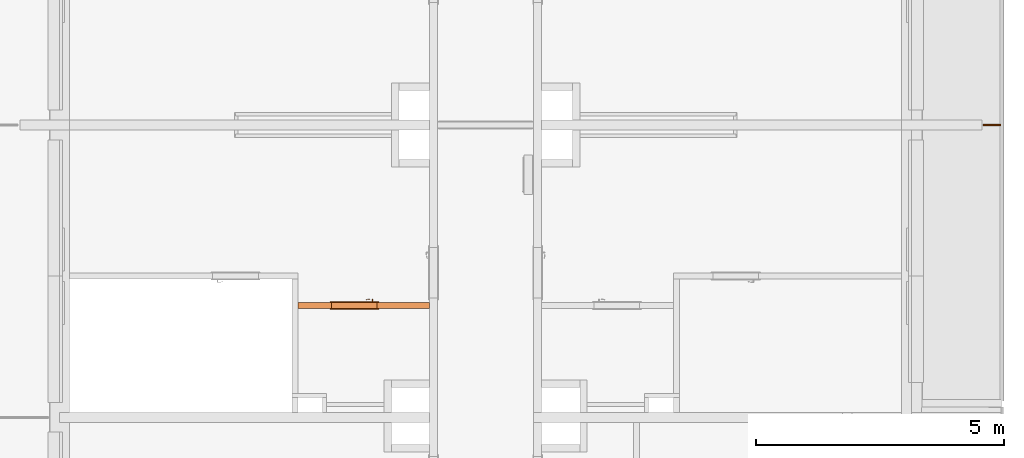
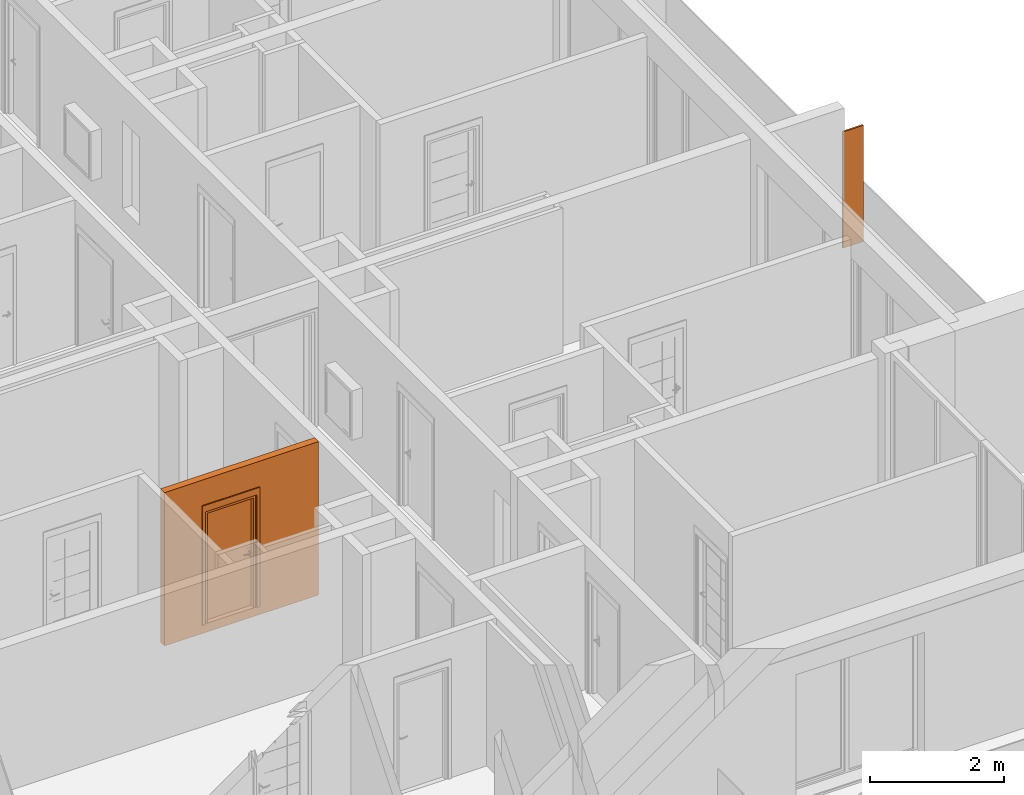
# One storey, part 27 of 64: 3 proxies, 1 opening.
"""IFC2X3 building model written with IfcOpenShell, lengths in millimetres."""

from ifc_helpers import new_model, entity, si_unit, converted_unit, derived_unit, money_unit, direction, frame, origin_with_axes, origin_2d_with_axis, place, context, subcontext, project, spatial, polyline, rectangle, outline, extrude, open_shell, faceted_brep, surface_model, source, transform, mapped, material, type_object, element, fill, save


model = new_model("IFC2X3")

# Units and contexts
model_context = context("Model", 3, precision=0.01, world=origin_with_axes(), true_north=direction((0.34421633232, 0.938890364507)))
body_context = subcontext(model_context, "Body", "Model", "MODEL_VIEW")
ifc_project = project(units=[si_unit("LENGTHUNIT", "METRE", prefix="MILLI"), si_unit("AREAUNIT", "SQUARE_METRE"), si_unit("VOLUMEUNIT", "CUBIC_METRE"), converted_unit("PLANEANGLEUNIT", "DEGREE", entity("IfcPlaneAngleMeasure", 0.0174532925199), si_unit("PLANEANGLEUNIT", "RADIAN"), dimensions=[0, 0, 0, 0, 0, 0, 0]), si_unit("SOLIDANGLEUNIT", "STERADIAN"), money_unit("USD"), converted_unit("TIMEUNIT", "Year", entity("IfcTimeMeasure", 31556926.0), si_unit("TIMEUNIT", "SECOND"), dimensions=[0, 0, 1, 0, 0, 0, 0]), si_unit("MASSUNIT", "GRAM", prefix="KILO"), si_unit("THERMODYNAMICTEMPERATUREUNIT", "DEGREE_CELSIUS"), si_unit("LUMINOUSINTENSITYUNIT", "LUMEN"), si_unit("ENERGYUNIT", "JOULE", prefix="MEGA"), derived_unit("THERMALCONDUCTANCEUNIT", [(si_unit("POWERUNIT", "WATT"), 1), (si_unit("LENGTHUNIT", "METRE"), -1), (si_unit("THERMODYNAMICTEMPERATUREUNIT", "KELVIN"), -1)]), derived_unit("SPECIFICHEATCAPACITYUNIT", [(si_unit("ENERGYUNIT", "JOULE"), 1), (si_unit("MASSUNIT", "GRAM", prefix="KILO"), -1), (si_unit("THERMODYNAMICTEMPERATUREUNIT", "KELVIN"), -1)]), derived_unit("MASSDENSITYUNIT", [(si_unit("MASSUNIT", "GRAM", prefix="KILO"), 1), (si_unit("VOLUMEUNIT", "CUBIC_METRE"), -1)])], contexts=[model_context])

# Site, building, storey
site_placement = place(None, origin_with_axes())
site = spatial("IfcSite", under=ifc_project, at=site_placement, Name="USTRONIE MORSKIE", CompositionType="ELEMENT")
building_placement = place(site_placement, origin_with_axes())
building = spatial("IfcBuilding", under=site, at=building_placement, Name="Budynek", CompositionType="ELEMENT")
storey_placement = place(building_placement, frame((0.0, 0.0, 7000.0), z_axis=(0.0, 0.0, 1.0), x_axis=(1.0, 0.0, 0.0)))
storey = spatial("IfcBuildingStorey", under=building, at=storey_placement, Name="PIĘTRO 2", CompositionType="ELEMENT", Elevation=7000.0)

# Proxies, opening
ifc_material_1 = material(Name="Bloczki silikatowe")
building_element_proxy_type_1 = type_object("IfcBuildingElementProxyType", Name="Bloczki silikatowe 120", PredefinedType="NOTDEFINED")
proxy_1_placement = place(storey_placement, frame((413217.920919, 717361.219701, -160.0), z_axis=(0.0, 0.0, 1.0), x_axis=(1.0, 0.0, 0.0)))
proxy_1 = element("IfcBuildingElementProxy", 1, at=proxy_1_placement, inside=storey, type_object=building_element_proxy_type_1, material=ifc_material_1, Name="SW-04", context=body_context, shape_type="Brep", body=[
    faceted_brep([(2720.0, 59.9999999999, 0.0), (2720.0, -59.9999999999, 0.0), (60.0, -59.9999999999, 0.0), (60.0, 59.9999999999, 0.0), (2720.0, 59.9999999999, 2800.0), (2720.0, -59.9999999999, 2800.0), (60.0, -59.9999999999, 2800.0), (60.0, 59.9999999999, 2800.0)], [[[0, 1, 2, 3]], [[1, 0, 4, 5]], [[1, 5, 6, 2]], [[7, 3, 2, 6]], [[4, 0, 3, 7]], [[5, 4, 7, 6]]]),
])
opening_placement = place(proxy_1_placement, frame((1200.0, 0.0, 160.0), z_axis=(0.0, 0.0, 1.0), x_axis=(1.0, 0.0, 0.0)))
opening = element("IfcOpeningElement", 2, at=opening_placement, cuts=proxy_1, Name="Dw.4", context=body_context, shape_type="SweptSolid", body=[
    extrude(rectangle(XDim=920.0, YDim=2070.0, at=origin_2d_with_axis()), frame((0.0, -120.0, 1035.0), z_axis=(0.0, -1.0, 0.0), x_axis=(-1.0, 0.0, 0.0)), (0.0, 0.0, -1.0), 360.0),
    extrude(rectangle(XDim=994.0, YDim=2177.0, at=origin_2d_with_axis()), frame((0.0, -59.9999999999, 1088.5), z_axis=(0.0, -1.0, 0.0), x_axis=(-1.0, 0.0, 0.0)), (0.0, 0.0, 1.0), 120.0),
    extrude(rectangle(XDim=994.0, YDim=2177.0, at=origin_2d_with_axis()), frame((0.0, 60.0000000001, 1088.5), z_axis=(0.0, 1.0, 0.0), x_axis=(-1.0, 0.0, 0.0)), (0.0, 0.0, 1.0), 120.0),
])
building_element_proxy_type_2 = type_object("IfcBuildingElementProxyType", Name="Drzwi 23", PredefinedType="NOTDEFINED")
shared_shape = source(origin_with_axes(), body_context, "Body", "SurfaceModel", [
    faceted_brep([(460.0, -115.0, 0.0), (460.0, -120.0, 0.0), (435.0, -120.0, 0.0), (435.0, -115.0, 0.0), (460.0, -115.0, 2070.0), (460.0, -120.0, 2070.0), (435.0, -120.0, 2045.0), (435.0, -115.0, 2045.0)], [[[0, 1, 2, 3]], [[4, 5, 1, 0]], [[1, 5, 6, 2]], [[3, 2, 6, 7]], [[0, 3, 7, 4]], [[7, 6, 5, 4]]]),
    faceted_brep([(-460.0, -115.0, 2070.0), (-460.0, -120.0, 2070.0), (-435.0, -120.0, 2045.0), (-435.0, -115.0, 2045.0), (-460.0, -115.0, 0.0), (-460.0, -120.0, 0.0), (-435.0, -120.0, 0.0), (-435.0, -115.0, 0.0)], [[[0, 1, 2, 3]], [[4, 5, 1, 0]], [[1, 5, 6, 2]], [[3, 2, 6, 7]], [[0, 3, 7, 4]], [[7, 6, 5, 4]]]),
    faceted_brep([(435.0, -115.0, 2045.0), (435.0, -120.0, 2045.0), (-435.0, -120.0, 2045.0), (-435.0, -115.0, 2045.0), (460.0, -115.0, 2070.0), (460.0, -120.0, 2070.0), (-460.0, -120.0, 2070.0), (-460.0, -115.0, 2070.0)], [[[0, 1, 2, 3]], [[4, 5, 1, 0]], [[1, 5, 6, 2]], [[3, 2, 6, 7]], [[0, 3, 7, 4]], [[7, 6, 5, 4]]]),
    faceted_brep([(497.0, -139.0, 0.0), (447.0, -139.0, 0.0), (447.0, -120.0, 0.0), (497.0, -120.0, 0.0), (497.0, -139.0, 2177.0), (447.0, -139.0, 2057.0), (447.0, -120.0, 2057.0), (497.0, -120.0, 2177.0)], [[[0, 1, 2, 3]], [[0, 4, 5, 1]], [[1, 5, 6, 2]], [[3, 2, 6, 7]], [[4, 0, 3, 7]], [[5, 4, 7, 6]]]),
    faceted_brep([(-497.0, -139.0, 2177.0), (-447.0, -139.0, 2057.0), (-447.0, -120.0, 2057.0), (-497.0, -120.0, 2177.0), (-497.0, -139.0, 0.0), (-447.0, -139.0, 0.0), (-447.0, -120.0, 0.0), (-497.0, -120.0, 0.0)], [[[0, 1, 2, 3]], [[0, 4, 5, 1]], [[1, 5, 6, 2]], [[3, 2, 6, 7]], [[4, 0, 3, 7]], [[5, 4, 7, 6]]]),
    faceted_brep([(497.0, -139.0, 2177.0), (447.0, -139.0, 2057.0), (447.0, -120.0, 2057.0), (497.0, -120.0, 2177.0), (-497.0, -139.0, 2177.0), (-447.0, -139.0, 2057.0), (-447.0, -120.0, 2057.0), (-497.0, -120.0, 2177.0)], [[[0, 1, 2, 3]], [[0, 4, 5, 1]], [[1, 5, 6, 2]], [[3, 2, 6, 7]], [[4, 0, 3, 7]], [[5, 4, 7, 6]]]),
    faceted_brep([(497.0, 19.0, 0.0), (497.0, 0.0, 0.0), (447.0, 0.0, 0.0), (447.0, 19.0, 0.0), (497.0, 19.0, 2177.0), (497.0, 0.0, 2177.0), (447.0, 0.0, 2057.0), (447.0, 19.0, 2057.0)], [[[0, 1, 2, 3]], [[4, 5, 1, 0]], [[1, 5, 6, 2]], [[3, 2, 6, 7]], [[0, 3, 7, 4]], [[7, 6, 5, 4]]]),
    faceted_brep([(-497.0, 19.0, 2177.0), (-497.0, 0.0, 2177.0), (-447.0, 0.0, 2057.0), (-447.0, 19.0, 2057.0), (-497.0, 19.0, 0.0), (-497.0, 0.0, 0.0), (-447.0, 0.0, 0.0), (-447.0, 19.0, 0.0)], [[[0, 1, 2, 3]], [[4, 5, 1, 0]], [[1, 5, 6, 2]], [[3, 2, 6, 7]], [[0, 3, 7, 4]], [[7, 6, 5, 4]]]),
    faceted_brep([(497.0, 19.0, 2177.0), (497.0, 0.0, 2177.0), (447.0, 0.0, 2057.0), (447.0, 19.0, 2057.0), (-497.0, 19.0, 2177.0), (-497.0, 0.0, 2177.0), (-447.0, 0.0, 2057.0), (-447.0, 19.0, 2057.0)], [[[0, 1, 2, 3]], [[4, 5, 1, 0]], [[1, 5, 6, 2]], [[3, 2, 6, 7]], [[0, 3, 7, 4]], [[7, 6, 5, 4]]]),
    faceted_brep([(400.0, -40.0, 0.0), (400.0, -115.0, 0.0), (400.0, -115.0, 2000.0), (400.0, -40.0, 2000.0), (412.0, -40.0, 0.0), (412.0, 0.0, 0.0), (460.0, 0.0, 0.0), (460.0, -115.0, 0.0), (460.0, -115.0, 2000.0), (412.0, -40.0, 2000.0), (460.0, 0.0, 2000.0), (412.0, 0.0, 2000.0)], [[[0, 1, 2, 3]], [[4, 5, 6, 7, 1, 0]], [[1, 7, 8, 2]], [[9, 3, 2, 8, 10, 11]], [[9, 4, 0, 3]], [[11, 5, 4, 9]], [[11, 10, 6, 5]], [[6, 10, 8, 7]]]),
    faceted_brep([(-412.0, -40.0, 2000.0), (-412.0, 0.0, 2000.0), (-460.0, 0.0, 2000.0), (-460.0, -115.0, 2000.0), (-400.0, -115.0, 2000.0), (-400.0, -40.0, 2000.0), (-412.0, -40.0, 0.0), (-412.0, 0.0, 0.0), (-460.0, 0.0, 0.0), (-460.0, -115.0, 0.0), (-400.0, -115.0, 0.0), (-400.0, -40.0, 0.0)], [[[0, 1, 2, 3, 4, 5]], [[0, 6, 7, 1]], [[7, 8, 2, 1]], [[2, 8, 9, 3]], [[3, 9, 10, 4]], [[5, 4, 10, 11]], [[5, 11, 6, 0]], [[6, 11, 10, 9, 8, 7]]]),
    faceted_brep([(412.0, 0.0, 2012.0), (-412.0, 0.0, 2012.0), (-412.0, 0.0, 2000.0), (-460.0, 0.0, 2000.0), (-460.0, 0.0, 2070.0), (460.0, 0.0, 2070.0), (460.0, 0.0, 2000.0), (412.0, 0.0, 2000.0), (412.0, -40.0, 2012.0), (-412.0, -40.0, 2012.0), (-412.0, -40.0, 2000.0), (-400.0, -40.0, 2000.0), (-400.0, -115.0, 2000.0), (-460.0, -115.0, 2000.0), (-460.0, -115.0, 2070.0), (460.0, -115.0, 2070.0), (460.0, -115.0, 2000.0), (412.0, -40.0, 2000.0), (400.0, -115.0, 2000.0), (400.0, -40.0, 2000.0)], [[[0, 1, 2, 3, 4, 5, 6, 7]], [[0, 8, 9, 1]], [[1, 9, 10, 2]], [[10, 11, 12, 13, 3, 2]], [[4, 3, 13, 14]], [[5, 4, 14, 15]], [[6, 5, 15, 16]], [[17, 7, 6, 16, 18, 19]], [[7, 17, 8, 0]], [[10, 9, 8, 17, 19, 11]], [[19, 18, 12, 11]], [[12, 18, 16, 15, 14, 13]]]),
    faceted_brep([(390.5, -40.0, 1060.0), (333.5, -40.0, 1060.0), (333.5, -43.0, 1060.0), (390.5, -43.0, 1060.0), (390.5, -40.0, 870.0), (333.5, -40.0, 870.0), (333.5, -43.0, 870.0), (390.5, -43.0, 870.0)], [[[0, 1, 2, 3]], [[0, 4, 5, 1]], [[1, 5, 6, 2]], [[3, 2, 6, 7]], [[4, 0, 3, 7]], [[5, 4, 7, 6]]]),
    faceted_brep([(362.0, -104.0, 990.0), (367.0, -104.0, 991.339745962), (367.0, -111.0, 991.339745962), (362.0, -111.0, 990.0), (337.0, -104.0, 990.0), (337.0, -104.0, 1010.0), (362.0, -104.0, 1010.0), (367.0, -104.0, 1008.66025404), (370.660254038, -104.0, 1005.0), (372.0, -104.0, 1000.0), (370.660254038, -104.0, 995.0), (370.660254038, -111.0, 995.0), (372.0, -111.0, 1000.0), (370.660254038, -111.0, 1005.0), (367.0, -111.0, 1008.66025404), (362.0, -111.0, 1010.0), (337.0, -111.0, 1010.0), (337.0, -111.0, 990.0)], [[[0, 1, 2, 3]], [[0, 4, 5, 6, 7, 8, 9, 10, 1]], [[1, 10, 11, 2]], [[3, 2, 11, 12, 13, 14, 15, 16, 17]], [[4, 0, 3, 17]], [[5, 4, 17, 16]], [[6, 5, 16, 15]], [[7, 6, 15, 14]], [[8, 7, 14, 13]], [[9, 8, 13, 12]], [[10, 9, 12, 11]]]),
    surface_model("IfcShellBasedSurfaceModel", [(337.0, -104.0, 1010.0), (323.901717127, -104.0, 1009.60730092), (323.596090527, -111.0, 1009.60730092), (337.0, -104.0, 990.0), (323.901717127, -104.0, 990.392699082), (296.890283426, -108.663544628, 1008.82190275), (337.0, -111.0, 1010.0), (337.0, -111.0, 990.0), (297.804837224, -101.716818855, 991.178097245), (297.804837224, -101.716818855, 1008.82190275), (296.890283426, -108.663544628, 991.178097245), (323.596090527, -111.0, 990.392699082), (272.006256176, -97.1678329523, 991.963495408), (272.006256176, -97.1678329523, 1008.03650459), (270.489735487, -104.008415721, 1008.03650459), (270.489735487, -104.008415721, 991.963495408), (246.702316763, -90.3876628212, 992.748893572), (246.702316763, -90.3876628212, 1007.25110643), (244.59537082, -97.0700416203, 1007.25110643), (244.59537082, -97.0700416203, 992.748893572), (238.829442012, -87.5221707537, 993.0), (238.829442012, -87.5221707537, 1007.0), (236.538795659, -94.1376880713, 1007.0), (236.538795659, -94.1376880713, 993.0)], [open_shell([[[0, 1, 2]], [[0, 3, 4, 1]], [[1, 5, 2]], [[0, 2, 6]], [[4, 3, 7]], [[1, 4, 8, 9]], [[1, 9, 5]], [[2, 5, 10, 11]], [[6, 2, 11, 7]], [[4, 7, 11]], [[8, 4, 11]], [[9, 8, 12, 13]], [[9, 14, 5]], [[5, 14, 15, 10]], [[8, 11, 10]], [[12, 8, 10]], [[13, 12, 16, 17]], [[9, 13, 14]], [[14, 18, 19, 15]], [[12, 10, 15]], [[16, 12, 15]], [[17, 16, 20, 21]], [[13, 17, 18]], [[13, 18, 14]], [[18, 22, 23, 19]], [[16, 15, 19]], [[20, 16, 19]], [[21, 20, 23, 22]], [[17, 21, 22]], [[17, 22, 18]], [[20, 19, 23]]])]),
    faceted_brep([(351.607695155, -53.0, 994.0), (350.0, -53.0, 1000.0), (349.0, -43.0, 1000.0), (350.741669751, -43.0, 993.5), (356.0, -53.0, 989.607695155), (362.0, -53.0, 988.0), (368.0, -53.0, 989.607695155), (372.392304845, -53.0, 994.0), (374.0, -53.0, 1000.0), (372.392304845, -53.0, 1006.0), (368.0, -53.0, 1010.39230485), (362.0, -53.0, 1012.0), (356.0, -53.0, 1010.39230485), (351.607695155, -53.0, 1006.0), (350.741669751, -43.0, 1006.5), (355.5, -43.0, 1011.25833025), (362.0, -43.0, 1013.0), (368.5, -43.0, 1011.25833025), (373.258330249, -43.0, 1006.5), (375.0, -43.0, 1000.0), (373.258330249, -43.0, 993.5), (368.5, -43.0, 988.741669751), (362.0, -43.0, 987.0), (355.5, -43.0, 988.741669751)], [[[0, 1, 2, 3]], [[1, 0, 4, 5, 6, 7, 8, 9, 10, 11, 12, 13]], [[1, 13, 14, 2]], [[2, 14, 15, 16, 17, 18, 19, 20, 21, 22, 23, 3]], [[4, 0, 3, 23]], [[5, 4, 23, 22]], [[6, 5, 22, 21]], [[7, 6, 21, 20]], [[8, 7, 20, 19]], [[9, 8, 19, 18]], [[10, 9, 18, 17]], [[11, 10, 17, 16]], [[12, 11, 16, 15]], [[13, 12, 15, 14]]]),
    faceted_brep([(344.679491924, -47.0, 895.0), (342.0, -47.0, 905.0), (340.0, -43.0, 905.0), (342.947441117, -43.0, 894.0), (352.0, -47.0, 887.679491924), (362.0, -47.0, 885.0), (372.0, -47.0, 887.679491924), (379.320508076, -47.0, 895.0), (382.0, -47.0, 905.0), (379.320508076, -47.0, 915.0), (372.0, -47.0, 922.320508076), (362.0, -47.0, 925.0), (352.0, -47.0, 922.320508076), (344.679491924, -47.0, 915.0), (342.947441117, -43.0, 916.0), (351.0, -43.0, 924.052558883), (362.0, -43.0, 927.0), (373.0, -43.0, 924.052558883), (381.052558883, -43.0, 916.0), (384.0, -43.0, 905.0), (381.052558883, -43.0, 894.0), (373.0, -43.0, 885.947441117), (362.0, -43.0, 883.0), (351.0, -43.0, 885.947441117)], [[[0, 1, 2, 3]], [[1, 0, 4, 5, 6, 7, 8, 9, 10, 11, 12, 13]], [[1, 13, 14, 2]], [[2, 14, 15, 16, 17, 18, 19, 20, 21, 22, 23, 3]], [[4, 0, 3, 23]], [[5, 4, 23, 22]], [[6, 5, 22, 21]], [[7, 6, 21, 20]], [[8, 7, 20, 19]], [[9, 8, 19, 18]], [[10, 9, 18, 17]], [[11, 10, 17, 16]], [[12, 11, 16, 15]], [[13, 12, 15, 14]]]),
    faceted_brep([(357.050252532, -49.0, 909.050252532), (355.0, -49.0, 914.0), (354.0, -47.0, 914.0), (356.343145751, -47.0, 908.343145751), (362.0, -49.0, 907.0), (366.949747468, -49.0, 909.050252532), (369.0, -49.0, 914.0), (366.949747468, -49.0, 918.949747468), (362.0, -49.0, 921.0), (357.050252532, -49.0, 918.949747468), (356.343145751, -47.0, 919.656854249), (362.0, -47.0, 922.0), (367.656854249, -47.0, 919.656854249), (370.0, -47.0, 914.0), (367.656854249, -47.0, 908.343145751), (362.0, -47.0, 906.0)], [[[0, 1, 2, 3]], [[1, 0, 4, 5, 6, 7, 8, 9]], [[1, 9, 10, 2]], [[2, 10, 11, 12, 13, 14, 15, 3]], [[4, 0, 3, 15]], [[5, 4, 15, 14]], [[6, 5, 14, 13]], [[7, 6, 13, 12]], [[8, 7, 12, 11]], [[9, 8, 11, 10]]]),
    faceted_brep([(362.0, -53.0, 1010.0), (357.0, -53.0, 1008.66025404), (357.0, -104.0, 1008.66025404), (362.0, -104.0, 1010.0), (367.0, -53.0, 1008.66025404), (370.660254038, -53.0, 1005.0), (372.0, -53.0, 1000.0), (370.660254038, -53.0, 995.0), (367.0, -53.0, 991.339745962), (362.0, -53.0, 990.0), (357.0, -53.0, 991.339745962), (353.339745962, -53.0, 995.0), (352.0, -53.0, 1000.0), (353.339745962, -53.0, 1005.0), (353.339745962, -104.0, 1005.0), (352.0, -104.0, 1000.0), (353.339745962, -104.0, 995.0), (357.0, -104.0, 991.339745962), (362.0, -104.0, 990.0), (367.0, -104.0, 991.339745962), (370.660254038, -104.0, 995.0), (372.0, -104.0, 1000.0), (370.660254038, -104.0, 1005.0), (367.0, -104.0, 1008.66025404)], [[[0, 1, 2, 3]], [[0, 4, 5, 6, 7, 8, 9, 10, 11, 12, 13, 1]], [[1, 13, 14, 2]], [[3, 2, 14, 15, 16, 17, 18, 19, 20, 21, 22, 23]], [[4, 0, 3, 23]], [[5, 4, 23, 22]], [[6, 5, 22, 21]], [[7, 6, 21, 20]], [[8, 7, 20, 19]], [[9, 8, 19, 18]], [[10, 9, 18, 17]], [[11, 10, 17, 16]], [[12, 11, 16, 15]], [[13, 12, 15, 14]]]),
    faceted_brep([(390.5, 0.0, 1060.0), (390.5, 3.0, 1060.0), (333.5, 3.0, 1060.0), (333.5, 0.0, 1060.0), (390.5, 0.0, 870.0), (390.5, 3.0, 870.0), (333.5, 3.0, 870.0), (333.5, 0.0, 870.0)], [[[0, 1, 2, 3]], [[4, 5, 1, 0]], [[1, 5, 6, 2]], [[3, 2, 6, 7]], [[0, 3, 7, 4]], [[7, 6, 5, 4]]]),
    faceted_brep([(362.0, 64.0, 990.0), (362.0, 71.0, 990.0), (367.0, 71.0, 991.339745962), (367.0, 64.0, 991.339745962), (337.0, 64.0, 990.0), (337.0, 71.0, 990.0), (337.0, 71.0, 1010.0), (362.0, 71.0, 1010.0), (367.0, 71.0, 1008.66025404), (370.660254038, 71.0, 1005.0), (372.0, 71.0, 1000.0), (370.660254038, 71.0, 995.0), (370.660254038, 64.0, 995.0), (372.0, 64.0, 1000.0), (370.660254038, 64.0, 1005.0), (367.0, 64.0, 1008.66025404), (362.0, 64.0, 1010.0), (337.0, 64.0, 1010.0)], [[[0, 1, 2, 3]], [[4, 5, 1, 0]], [[1, 5, 6, 7, 8, 9, 10, 11, 2]], [[3, 2, 11, 12]], [[0, 3, 12, 13, 14, 15, 16, 17, 4]], [[17, 6, 5, 4]], [[16, 7, 6, 17]], [[15, 8, 7, 16]], [[14, 9, 8, 15]], [[13, 10, 9, 14]], [[12, 11, 10, 13]]]),
    surface_model("IfcShellBasedSurfaceModel", [(337.0, 64.0, 1010.0), (323.596090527, 71.0, 1009.60730092), (323.901717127, 64.0, 1009.60730092), (337.0, 71.0, 1010.0), (296.890283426, 68.6635446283, 1008.82190275), (323.901717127, 64.0, 990.392699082), (337.0, 64.0, 990.0), (337.0, 71.0, 990.0), (323.596090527, 71.0, 990.392699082), (296.890283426, 68.6635446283, 991.178097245), (297.804837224, 61.716818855, 1008.82190275), (297.804837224, 61.716818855, 991.178097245), (270.489735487, 64.0084157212, 991.963495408), (270.489735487, 64.0084157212, 1008.03650459), (272.006256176, 57.1678329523, 1008.03650459), (272.006256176, 57.1678329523, 991.963495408), (244.59537082, 57.0700416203, 992.748893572), (244.59537082, 57.0700416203, 1007.25110643), (246.702316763, 50.3876628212, 1007.25110643), (246.702316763, 50.3876628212, 992.748893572), (236.538795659, 54.1376880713, 993.0), (236.538795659, 54.1376880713, 1007.0), (238.829442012, 47.5221707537, 1007.0), (238.829442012, 47.5221707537, 993.0)], [open_shell([[[0, 1, 2]], [[0, 3, 1]], [[2, 1, 4]], [[0, 2, 5, 6]], [[3, 7, 8, 1]], [[1, 8, 9, 4]], [[2, 4, 10]], [[2, 10, 11, 5]], [[5, 7, 6]], [[5, 8, 7]], [[11, 9, 8]], [[4, 9, 12, 13]], [[10, 4, 13]], [[10, 14, 15, 11]], [[11, 8, 5]], [[15, 9, 11]], [[15, 12, 9]], [[13, 12, 16, 17]], [[10, 13, 14]], [[14, 18, 19, 15]], [[19, 12, 15]], [[19, 16, 12]], [[17, 16, 20, 21]], [[14, 13, 17]], [[14, 17, 18]], [[18, 22, 23, 19]], [[23, 16, 19]], [[23, 20, 16]], [[22, 21, 20, 23]], [[18, 17, 21]], [[18, 21, 22]]])]),
    faceted_brep([(351.607695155, 13.0, 994.0), (350.741669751, 3.0, 993.5), (349.0, 3.0, 1000.0), (350.0, 13.0, 1000.0), (356.0, 13.0, 989.607695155), (355.5, 3.0, 988.741669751), (362.0, 3.0, 987.0), (368.5, 3.0, 988.741669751), (373.258330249, 3.0, 993.5), (375.0, 3.0, 1000.0), (373.258330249, 3.0, 1006.5), (368.5, 3.0, 1011.25833025), (362.0, 3.0, 1013.0), (355.5, 3.0, 1011.25833025), (350.741669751, 3.0, 1006.5), (351.607695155, 13.0, 1006.0), (356.0, 13.0, 1010.39230485), (362.0, 13.0, 1012.0), (368.0, 13.0, 1010.39230485), (372.392304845, 13.0, 1006.0), (374.0, 13.0, 1000.0), (372.392304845, 13.0, 994.0), (368.0, 13.0, 989.607695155), (362.0, 13.0, 988.0)], [[[0, 1, 2, 3]], [[4, 5, 1, 0]], [[2, 1, 5, 6, 7, 8, 9, 10, 11, 12, 13, 14]], [[3, 2, 14, 15]], [[3, 15, 16, 17, 18, 19, 20, 21, 22, 23, 4, 0]], [[23, 6, 5, 4]], [[22, 7, 6, 23]], [[21, 8, 7, 22]], [[20, 9, 8, 21]], [[19, 10, 9, 20]], [[18, 11, 10, 19]], [[17, 12, 11, 18]], [[16, 13, 12, 17]], [[15, 14, 13, 16]]]),
    faceted_brep([(344.679491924, 7.0, 895.0), (342.947441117, 3.0, 894.0), (340.0, 3.0, 905.0), (342.0, 7.0, 905.0), (352.0, 7.0, 887.679491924), (351.0, 3.0, 885.947441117), (362.0, 3.0, 883.0), (373.0, 3.0, 885.947441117), (381.052558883, 3.0, 894.0), (384.0, 3.0, 905.0), (381.052558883, 3.0, 916.0), (373.0, 3.0, 924.052558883), (362.0, 3.0, 927.0), (351.0, 3.0, 924.052558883), (342.947441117, 3.0, 916.0), (344.679491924, 7.0, 915.0), (352.0, 7.0, 922.320508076), (362.0, 7.0, 925.0), (372.0, 7.0, 922.320508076), (379.320508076, 7.0, 915.0), (382.0, 7.0, 905.0), (379.320508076, 7.0, 895.0), (372.0, 7.0, 887.679491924), (362.0, 7.0, 885.0)], [[[0, 1, 2, 3]], [[4, 5, 1, 0]], [[2, 1, 5, 6, 7, 8, 9, 10, 11, 12, 13, 14]], [[3, 2, 14, 15]], [[3, 15, 16, 17, 18, 19, 20, 21, 22, 23, 4, 0]], [[23, 6, 5, 4]], [[22, 7, 6, 23]], [[21, 8, 7, 22]], [[20, 9, 8, 21]], [[19, 10, 9, 20]], [[18, 11, 10, 19]], [[17, 12, 11, 18]], [[16, 13, 12, 17]], [[15, 14, 13, 16]]]),
    faceted_brep([(357.050252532, 9.0, 909.050252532), (356.343145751, 7.0, 908.343145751), (354.0, 7.0, 914.0), (355.0, 9.0, 914.0), (362.0, 9.0, 907.0), (362.0, 7.0, 906.0), (367.656854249, 7.0, 908.343145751), (370.0, 7.0, 914.0), (367.656854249, 7.0, 919.656854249), (362.0, 7.0, 922.0), (356.343145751, 7.0, 919.656854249), (357.050252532, 9.0, 918.949747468), (362.0, 9.0, 921.0), (366.949747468, 9.0, 918.949747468), (369.0, 9.0, 914.0), (366.949747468, 9.0, 909.050252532)], [[[0, 1, 2, 3]], [[4, 5, 1, 0]], [[2, 1, 5, 6, 7, 8, 9, 10]], [[3, 2, 10, 11]], [[3, 11, 12, 13, 14, 15, 4, 0]], [[15, 6, 5, 4]], [[14, 7, 6, 15]], [[13, 8, 7, 14]], [[12, 9, 8, 13]], [[11, 10, 9, 12]]]),
    faceted_brep([(362.0, 13.0, 1010.0), (362.0, 64.0, 1010.0), (357.0, 64.0, 1008.66025404), (357.0, 13.0, 1008.66025404), (367.0, 13.0, 1008.66025404), (367.0, 64.0, 1008.66025404), (370.660254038, 64.0, 1005.0), (372.0, 64.0, 1000.0), (370.660254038, 64.0, 995.0), (367.0, 64.0, 991.339745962), (362.0, 64.0, 990.0), (357.0, 64.0, 991.339745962), (353.339745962, 64.0, 995.0), (352.0, 64.0, 1000.0), (353.339745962, 64.0, 1005.0), (353.339745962, 13.0, 1005.0), (352.0, 13.0, 1000.0), (353.339745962, 13.0, 995.0), (357.0, 13.0, 991.339745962), (362.0, 13.0, 990.0), (367.0, 13.0, 991.339745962), (370.660254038, 13.0, 995.0), (372.0, 13.0, 1000.0), (370.660254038, 13.0, 1005.0)], [[[0, 1, 2, 3]], [[4, 5, 1, 0]], [[1, 5, 6, 7, 8, 9, 10, 11, 12, 13, 14, 2]], [[3, 2, 14, 15]], [[0, 3, 15, 16, 17, 18, 19, 20, 21, 22, 23, 4]], [[23, 6, 5, 4]], [[22, 7, 6, 23]], [[21, 8, 7, 22]], [[20, 9, 8, 21]], [[19, 10, 9, 20]], [[18, 11, 10, 19]], [[17, 12, 11, 18]], [[16, 13, 12, 17]], [[15, 14, 13, 16]]]),
    faceted_brep([(-412.0, 0.0, 0.0), (412.0, 0.0, 0.0), (412.0, -40.0, 0.0), (-412.0, -40.0, 0.0), (-412.0, 0.0, 2012.0), (412.0, 0.0, 2012.0), (412.0, -40.0, 2012.0), (-412.0, -40.0, 2012.0)], [[[0, 1, 2, 3]], [[0, 4, 5, 1]], [[1, 5, 6, 2]], [[3, 2, 6, 7]], [[4, 0, 3, 7]], [[5, 4, 7, 6]]]),
])
proxy_2_placement = place(opening_placement, frame((-400.0, 0.0, 0.0), z_axis=(0.0, 0.0, 1.0), x_axis=(1.0, 0.0, 0.0)))
proxy_2 = element("IfcBuildingElementProxy", 3, at=proxy_2_placement, inside=storey, type_object=building_element_proxy_type_2, Name="Dw.4", context=body_context, shape_type="MappedRepresentation", body=[
    mapped(shared_shape, transform((400.0, 60.0000000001, 0.0))),
])
fill(opening, proxy_2)

# Proxy
ifc_material_2 = material(Name="Woda")
building_element_proxy_type_3 = type_object("IfcBuildingElementProxyType", Name="Woda 30", PredefinedType="NOTDEFINED")
proxy_3_placement = place(storey_placement, frame((427117.920919, 721001.193035, 20.0), z_axis=(0.0, 0.0, 1.0), x_axis=(0.99999999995, -1.00021546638e-05, 0.0)))
element("IfcBuildingElementProxy", 4, at=proxy_3_placement, inside=storey, type_object=building_element_proxy_type_3, material=ifc_material_2, Name="Œciana-007", context=body_context, shape_type="SweptSolid", body=[
    extrude(outline(polyline([(0.0, -15.0000000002), (350.000000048, -15.0000000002), (350.000000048, 14.9999999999), (0.0, 14.9999999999), (0.0, -15.0000000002)])), origin_with_axes(), (0.0, 0.0, 1.0), 2120.0),
])

save(model, "model.ifc")
